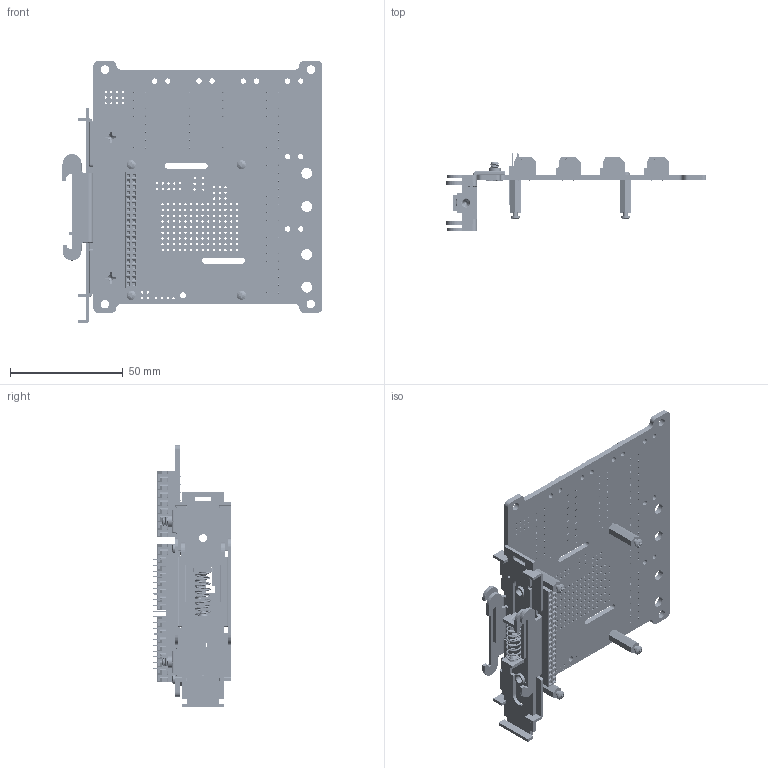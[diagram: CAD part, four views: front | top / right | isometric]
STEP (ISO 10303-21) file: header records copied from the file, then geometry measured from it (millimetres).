
FILE_DESCRIPTION (( 'STEP AP214' ), '1' );
FILE_NAME ('pibk01-stk-din_rev_b.step', '2022-12-12T13:14:48', ( '' ), ( '' ), 'SwSTEP 2.0', 'SolidWorks 2018', '' );
FILE_SCHEMA (( 'AUTOMOTIVE_DESIGN' ));
Length unit declared in the file: inch
Products named in the file (9): pibk01 Board; Green Spring terminal 8 Pos; #2 Panhead Machine Screw 0.25 length; 2x20 header, press-fit, stacking (little) (12mm pins); pibk01-stk-din_rev_b; 2x20 header, press-fit, stacking (BIG) (12mm pins); Z_STANDOFF_H1_#2-56FF_0.563_NY; M4 8mm FH_92010A218; dinm30
Assembly tree (24 placements, depth 2):
  pibk01-stk-din_rev_b
    pibk01 Board
    dinm30
    M4 8mm FH_92010A218  x2
    Green Spring terminal 8 Pos  x6
    2x20 header, press-fit, stacking (BIG) (12mm pins)
    2x20 header, press-fit, stacking (little) (12mm pins)
    Z_STANDOFF_H1_#2-56FF_0.563_NY  x4
    #2 Panhead Machine Screw 0.25 length  x8
Bounding box: 115.67 x 34.81 x 116.28 mm (x, y, z)
Volume: 47898.8 mm3; surface area: 65991 mm2
Topology: 466 solids, 466 shells, 22190 faces, 57244 edges, 36719 vertices
Faces by surface type: plane 10598, cylinder 7358, bspline 2082, torus 1632, sphere 334, cone 186
Entity records: 607872 total; most frequent: CARTESIAN_POINT 170666, ORIENTED_EDGE 63110, DIRECTION 56144, EDGE_CURVE 31555, VERTEX_POINT 20202, VECTOR 19028, LINE 19028, AXIS2_PLACEMENT_3D 18558
